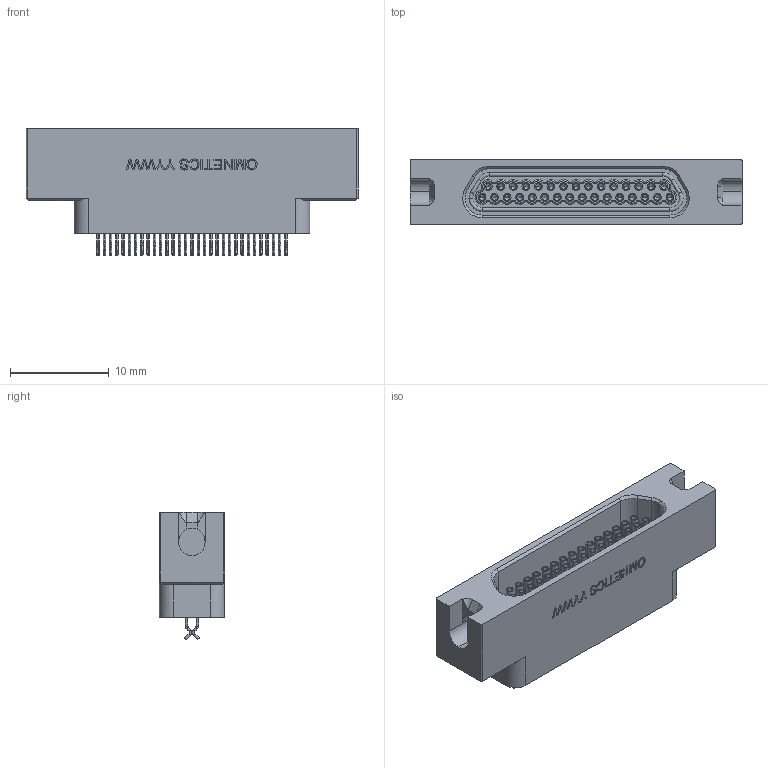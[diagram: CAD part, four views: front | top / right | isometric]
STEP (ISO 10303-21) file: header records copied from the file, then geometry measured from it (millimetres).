
FILE_DESCRIPTION (( 'STEP AP214' ), '1' );
FILE_NAME ('A99205-031 REV A.STEP', '2021-01-27T16:25:31', ( '' ), ( '' ), 'SwSTEP 2.0', 'SolidWorks 2019', '' );
FILE_SCHEMA (( 'AUTOMOTIVE_DESIGN' ));
Length unit declared in the file: inch
Products named in the file (1): A99205-031 REV A
Bounding box: 33.66 x 6.62 x 12.89 mm (x, y, z)
Volume: 1629.8 mm3; surface area: 2828 mm2
Topology: 1 solids, 66 shells, 1641 faces, 3647 edges, 2178 vertices
Faces by surface type: cylinder 886, plane 374, torus 256, cone 71, bspline 54
Entity records: 66979 total; most frequent: CARTESIAN_POINT 12917, DIRECTION 8102, ORIENTED_EDGE 7158, EDGE_CURVE 3579, AXIS2_PLACEMENT_3D 3315, VERTEX_POINT 2178, EDGE_LOOP 1875, CIRCLE 1727
